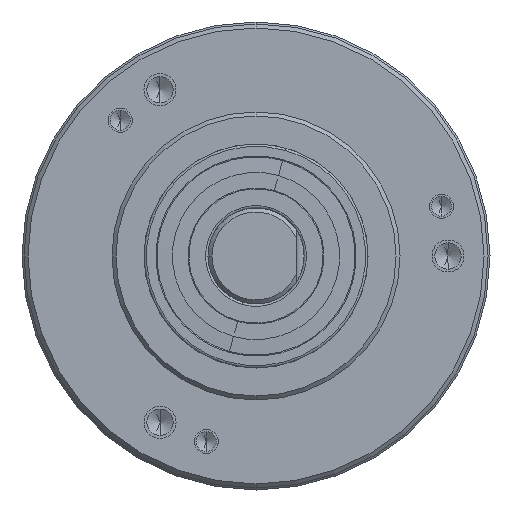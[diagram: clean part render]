
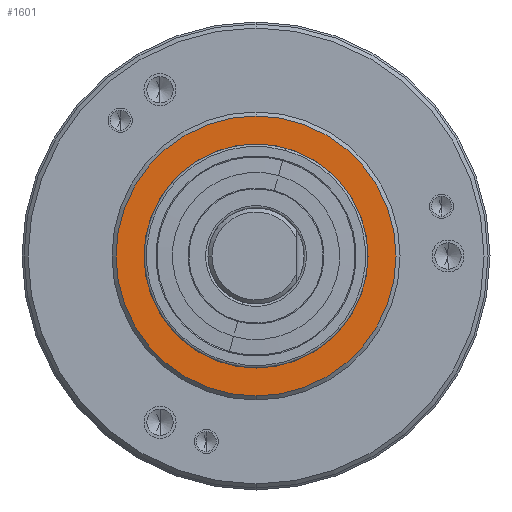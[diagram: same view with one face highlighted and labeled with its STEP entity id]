
A CAD part, front view. The second image highlights one B-rep face of the part: STEP entity #1601.
In plain terms, the highlighted planar face has unit normal (0, -1, 0).
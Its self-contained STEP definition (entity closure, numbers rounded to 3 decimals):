
#1194 = VERTEX_POINT ( 'NONE', #5746 ) ;
#1260 = VERTEX_POINT ( 'NONE', #6027 ) ;
#1289 = EDGE_CURVE ( 'NONE', #1194, #1260, #6039, .T. ) ;
#1430 = VERTEX_POINT ( 'NONE', #6787 ) ;
#1495 = VERTEX_POINT ( 'NONE', #6962 ) ;
#1499 = EDGE_CURVE ( 'NONE', #1430, #1495, #6960, .T. ) ;
#1591 = ORIENTED_EDGE ( 'NONE', *, *, #1716, .T. ) ;
#1599 = EDGE_CURVE ( 'NONE', #1495, #1430, #7125, .T. ) ;
#1601 = ADVANCED_FACE ( 'NONE', ( #7124, #7079 ), #7169, .T. ) ;
#1602 = EDGE_LOOP ( 'NONE', ( #1591, #1702 ) ) ;
#1610 = EDGE_LOOP ( 'NONE', ( #1650, #1711 ) ) ;
#1650 = ORIENTED_EDGE ( 'NONE', *, *, #1599, .F. ) ;
#1702 = ORIENTED_EDGE ( 'NONE', *, *, #1289, .T. ) ;
#1711 = ORIENTED_EDGE ( 'NONE', *, *, #1499, .F. ) ;
#1716 = EDGE_CURVE ( 'NONE', #1260, #1194, #7461, .T. ) ;
#5746 = CARTESIAN_POINT ( 'NONE',  ( 0., 0., -17.5 ) ) ;
#6027 = CARTESIAN_POINT ( 'NONE',  ( 0., 0., 17.5 ) ) ;
#6035 = DIRECTION ( 'NONE',  ( 0., 0., -1. ) ) ;
#6036 = DIRECTION ( 'NONE',  ( 0., -1., 0. ) ) ;
#6037 = CARTESIAN_POINT ( 'NONE',  ( 0., 0., 0. ) ) ;
#6038 = AXIS2_PLACEMENT_3D ( 'NONE', #6037, #6036, #6035 ) ;
#6039 = CIRCLE ( 'NONE', #6038, 17.5 ) ;
#6787 = CARTESIAN_POINT ( 'NONE',  ( 0., 0., 14. ) ) ;
#6902 = DIRECTION ( 'NONE',  ( 0., 0., -1. ) ) ;
#6903 = DIRECTION ( 'NONE',  ( 0., -1., 0. ) ) ;
#6904 = AXIS2_PLACEMENT_3D ( 'NONE', #6959, #6903, #6902 ) ;
#6959 = CARTESIAN_POINT ( 'NONE',  ( 0., 0., 0. ) ) ;
#6960 = CIRCLE ( 'NONE', #6904, 14. ) ;
#6962 = CARTESIAN_POINT ( 'NONE',  ( 0., 0., -14. ) ) ;
#7079 = FACE_BOUND ( 'NONE', #1610, .T. ) ;
#7118 = CARTESIAN_POINT ( 'NONE',  ( 0., 0., 0. ) ) ;
#7119 = AXIS2_PLACEMENT_3D ( 'NONE', #7118, #7128, #7127 ) ;
#7124 = FACE_OUTER_BOUND ( 'NONE', #1602, .T. ) ;
#7125 = CIRCLE ( 'NONE', #7119, 14. ) ;
#7127 = DIRECTION ( 'NONE',  ( 0., 0., -1. ) ) ;
#7128 = DIRECTION ( 'NONE',  ( 0., -1., 0. ) ) ;
#7156 = DIRECTION ( 'NONE',  ( 0., 0., -1. ) ) ;
#7157 = DIRECTION ( 'NONE',  ( 0., -1., 0. ) ) ;
#7168 = AXIS2_PLACEMENT_3D ( 'NONE', #7193, #7157, #7156 ) ;
#7169 = PLANE ( 'NONE',  #7168 ) ;
#7193 = CARTESIAN_POINT ( 'NONE',  ( 0., 0., 0. ) ) ;
#7460 = AXIS2_PLACEMENT_3D ( 'NONE', #7497, #7496, #7495 ) ;
#7461 = CIRCLE ( 'NONE', #7460, 17.5 ) ;
#7495 = DIRECTION ( 'NONE',  ( 0., 0., -1. ) ) ;
#7496 = DIRECTION ( 'NONE',  ( 0., -1., 0. ) ) ;
#7497 = CARTESIAN_POINT ( 'NONE',  ( 0., 0., 0. ) ) ;
